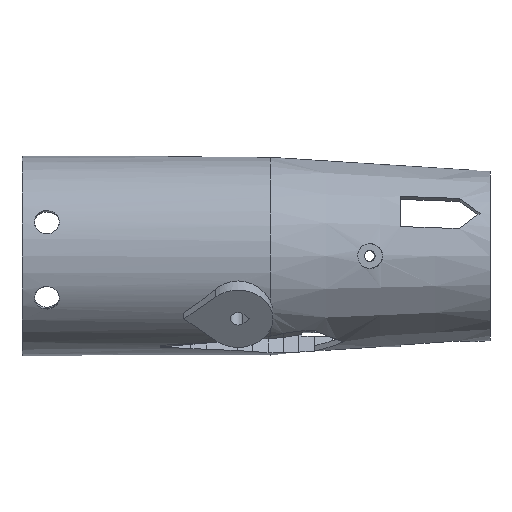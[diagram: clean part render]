
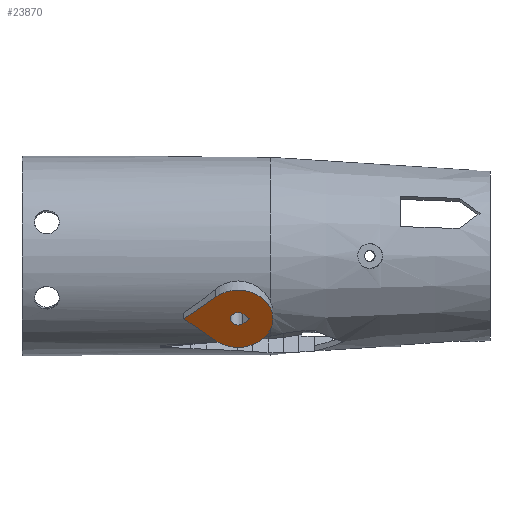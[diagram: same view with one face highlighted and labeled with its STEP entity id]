
A CAD part, front view. The second image highlights one B-rep face of the part: STEP entity #23870.
In plain terms, the highlighted planar face has unit normal (0, -0.819, -0.574).
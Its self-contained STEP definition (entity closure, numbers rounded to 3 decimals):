
#1912 = CYLINDRICAL_SURFACE('',#1913,7.);
#1913 = AXIS2_PLACEMENT_3D('',#1914,#1915,#1916);
#1914 = CARTESIAN_POINT('',(413.4,-9.83,-6.883));
#1915 = DIRECTION('',(-0.,-0.819,-0.574));
#1916 = DIRECTION('',(-0.,-0.574,0.819));
#1983 = PLANE('',#1984);
#1984 = AXIS2_PLACEMENT_3D('',#1985,#1986,#1987);
#1985 = CARTESIAN_POINT('',(408.9,-6.754,
    -11.275));
#1986 = DIRECTION('',(0.643,-0.439,0.628));
#1987 = DIRECTION('',(0.766,0.369,-0.527));
#2015 = PLANE('',#2016);
#2016 = AXIS2_PLACEMENT_3D('',#2017,#2018,#2019);
#2017 = CARTESIAN_POINT('',(402.51,-9.83,
    -6.883));
#2018 = DIRECTION('',(0.643,0.439,-0.628));
#2019 = DIRECTION('',(-0.766,0.369,-0.527));
#23733 = CYLINDRICAL_SURFACE('',#23734,1.525);
#23734 = AXIS2_PLACEMENT_3D('',#23735,#23736,#23737);
#23735 = CARTESIAN_POINT('',(413.4,-4.096,-2.868));
#23736 = DIRECTION('',(-0.,-0.819,-0.574));
#23737 = DIRECTION('',(-0.,-0.574,0.819));
#23761 = PLANE('',#23762);
#23762 = AXIS2_PLACEMENT_3D('',#23763,#23764,#23765);
#23763 = CARTESIAN_POINT('',(414.38,-3.426,
    -3.825));
#23764 = DIRECTION('',(0.643,0.439,-0.628));
#23765 = DIRECTION('',(-0.766,0.369,-0.527));
#23786 = PLANE('',#23787);
#23787 = AXIS2_PLACEMENT_3D('',#23788,#23789,#23790);
#23788 = CARTESIAN_POINT('',(415.772,-4.096,
    -2.868));
#23789 = DIRECTION('',(0.643,-0.439,0.628));
#23790 = DIRECTION('',(0.766,0.369,-0.527));
#23802 = VERTEX_POINT('',#23803);
#23803 = CARTESIAN_POINT('',(415.772,-18.021,
    -12.619));
#23824 = EDGE_CURVE('',#23802,#23825,#23827,.T.);
#23825 = VERTEX_POINT('',#23826);
#23826 = CARTESIAN_POINT('',(414.38,-18.691,
    -11.662));
#23827 = SURFACE_CURVE('',#23828,(#23832,#23838),.PCURVE_S1.);
#23828 = LINE('',#23829,#23830);
#23829 = CARTESIAN_POINT('',(415.076,-18.356,
    -12.14));
#23830 = VECTOR('',#23831,1.);
#23831 = DIRECTION('',(-0.766,-0.369,0.527));
#23832 = PCURVE('',#23786,#23833);
#23833 = DEFINITIONAL_REPRESENTATION('',(#23834),#23837);
#23834 = B_SPLINE_CURVE_WITH_KNOTS('',1,(#23835,#23836),.UNSPECIFIED.,
  .F.,.F.,(2,2),(-0.909,0.909),
  .PIECEWISE_BEZIER_KNOTS.);
#23835 = CARTESIAN_POINT('',(0.,-17.));
#23836 = CARTESIAN_POINT('',(-1.817,-17.));
#23837 = ( GEOMETRIC_REPRESENTATION_CONTEXT(2) 
PARAMETRIC_REPRESENTATION_CONTEXT() REPRESENTATION_CONTEXT('2D SPACE',''
  ) );
#23838 = PCURVE('',#23839,#23844);
#23839 = PLANE('',#23840);
#23840 = AXIS2_PLACEMENT_3D('',#23841,#23842,#23843);
#23841 = CARTESIAN_POINT('',(413.4,-18.021,-12.619));
#23842 = DIRECTION('',(-0.,-0.819,-0.574));
#23843 = DIRECTION('',(0.,0.574,-0.819));
#23844 = DEFINITIONAL_REPRESENTATION('',(#23845),#23849);
#23845 = LINE('',#23846,#23847);
#23846 = CARTESIAN_POINT('',(-0.584,1.676));
#23847 = VECTOR('',#23848,1.);
#23848 = DIRECTION('',(-0.643,-0.766));
#23849 = ( GEOMETRIC_REPRESENTATION_CONTEXT(2) 
PARAMETRIC_REPRESENTATION_CONTEXT() REPRESENTATION_CONTEXT('2D SPACE',''
  ) );
#23870 = ADVANCED_FACE('',(#23871,#23947),#23839,.T.);
#23871 = FACE_BOUND('',#23872,.F.);
#23872 = EDGE_LOOP('',(#23873,#23903,#23926));
#23873 = ORIENTED_EDGE('',*,*,#23874,.T.);
#23874 = EDGE_CURVE('',#23875,#23877,#23879,.T.);
#23875 = VERTEX_POINT('',#23876);
#23876 = CARTESIAN_POINT('',(408.9,-21.097,
    -8.226));
#23877 = VERTEX_POINT('',#23878);
#23878 = CARTESIAN_POINT('',(408.9,-14.946,
    -17.011));
#23879 = SURFACE_CURVE('',#23880,(#23885,#23896),.PCURVE_S1.);
#23880 = CIRCLE('',#23881,7.);
#23881 = AXIS2_PLACEMENT_3D('',#23882,#23883,#23884);
#23882 = CARTESIAN_POINT('',(413.4,-18.021,-12.619));
#23883 = DIRECTION('',(0.,0.819,0.574));
#23884 = DIRECTION('',(-0.643,-0.439,0.628));
#23885 = PCURVE('',#23839,#23886);
#23886 = DEFINITIONAL_REPRESENTATION('',(#23887),#23895);
#23887 = ( BOUNDED_CURVE() B_SPLINE_CURVE(2,(#23888,#23889,#23890,#23891
    ,#23892,#23893,#23894),.UNSPECIFIED.,.T.,.F.) 
B_SPLINE_CURVE_WITH_KNOTS((1,2,2,2,2,1),(-2.094,0.,
    2.094,4.189,6.283,8.378),
.UNSPECIFIED.) CURVE() GEOMETRIC_REPRESENTATION_ITEM() 
RATIONAL_B_SPLINE_CURVE((1.,0.5,1.,0.5,1.,0.5,1.)) REPRESENTATION_ITEM(
  '') );
#23888 = CARTESIAN_POINT('',(-5.362,-4.5));
#23889 = CARTESIAN_POINT('',(-13.156,4.788));
#23890 = CARTESIAN_POINT('',(-1.216,6.894));
#23891 = CARTESIAN_POINT('',(10.725,8.999));
#23892 = CARTESIAN_POINT('',(6.578,-2.394));
#23893 = CARTESIAN_POINT('',(2.431,-13.787));
#23894 = CARTESIAN_POINT('',(-5.362,-4.5));
#23895 = ( GEOMETRIC_REPRESENTATION_CONTEXT(2) 
PARAMETRIC_REPRESENTATION_CONTEXT() REPRESENTATION_CONTEXT('2D SPACE',''
  ) );
#23896 = PCURVE('',#1912,#23897);
#23897 = DEFINITIONAL_REPRESENTATION('',(#23898),#23902);
#23898 = LINE('',#23899,#23900);
#23899 = CARTESIAN_POINT('',(-5.585,10.));
#23900 = VECTOR('',#23901,1.);
#23901 = DIRECTION('',(-1.,0.));
#23902 = ( GEOMETRIC_REPRESENTATION_CONTEXT(2) 
PARAMETRIC_REPRESENTATION_CONTEXT() REPRESENTATION_CONTEXT('2D SPACE',''
  ) );
#23903 = ORIENTED_EDGE('',*,*,#23904,.T.);
#23904 = EDGE_CURVE('',#23877,#23905,#23907,.T.);
#23905 = VERTEX_POINT('',#23906);
#23906 = CARTESIAN_POINT('',(402.51,-18.021,
    -12.619));
#23907 = SURFACE_CURVE('',#23908,(#23912,#23919),.PCURVE_S1.);
#23908 = LINE('',#23909,#23910);
#23909 = CARTESIAN_POINT('',(408.9,-14.946,
    -17.011));
#23910 = VECTOR('',#23911,1.);
#23911 = DIRECTION('',(-0.766,-0.369,0.527));
#23912 = PCURVE('',#23839,#23913);
#23913 = DEFINITIONAL_REPRESENTATION('',(#23914),#23918);
#23914 = LINE('',#23915,#23916);
#23915 = CARTESIAN_POINT('',(5.362,-4.5));
#23916 = VECTOR('',#23917,1.);
#23917 = DIRECTION('',(-0.643,-0.766));
#23918 = ( GEOMETRIC_REPRESENTATION_CONTEXT(2) 
PARAMETRIC_REPRESENTATION_CONTEXT() REPRESENTATION_CONTEXT('2D SPACE',''
  ) );
#23919 = PCURVE('',#1983,#23920);
#23920 = DEFINITIONAL_REPRESENTATION('',(#23921),#23925);
#23921 = LINE('',#23922,#23923);
#23922 = CARTESIAN_POINT('',(0.,-10.));
#23923 = VECTOR('',#23924,1.);
#23924 = DIRECTION('',(-1.,0.));
#23925 = ( GEOMETRIC_REPRESENTATION_CONTEXT(2) 
PARAMETRIC_REPRESENTATION_CONTEXT() REPRESENTATION_CONTEXT('2D SPACE',''
  ) );
#23926 = ORIENTED_EDGE('',*,*,#23927,.T.);
#23927 = EDGE_CURVE('',#23905,#23875,#23928,.T.);
#23928 = SURFACE_CURVE('',#23929,(#23933,#23940),.PCURVE_S1.);
#23929 = LINE('',#23930,#23931);
#23930 = CARTESIAN_POINT('',(402.51,-18.021,
    -12.619));
#23931 = VECTOR('',#23932,1.);
#23932 = DIRECTION('',(0.766,-0.369,0.527));
#23933 = PCURVE('',#23839,#23934);
#23934 = DEFINITIONAL_REPRESENTATION('',(#23935),#23939);
#23935 = LINE('',#23936,#23937);
#23936 = CARTESIAN_POINT('',(-0.,-10.89));
#23937 = VECTOR('',#23938,1.);
#23938 = DIRECTION('',(-0.643,0.766));
#23939 = ( GEOMETRIC_REPRESENTATION_CONTEXT(2) 
PARAMETRIC_REPRESENTATION_CONTEXT() REPRESENTATION_CONTEXT('2D SPACE',''
  ) );
#23940 = PCURVE('',#2015,#23941);
#23941 = DEFINITIONAL_REPRESENTATION('',(#23942),#23946);
#23942 = LINE('',#23943,#23944);
#23943 = CARTESIAN_POINT('',(0.,-10.));
#23944 = VECTOR('',#23945,1.);
#23945 = DIRECTION('',(-1.,0.));
#23946 = ( GEOMETRIC_REPRESENTATION_CONTEXT(2) 
PARAMETRIC_REPRESENTATION_CONTEXT() REPRESENTATION_CONTEXT('2D SPACE',''
  ) );
#23947 = FACE_BOUND('',#23948,.F.);
#23948 = EDGE_LOOP('',(#23949,#23977,#23997));
#23949 = ORIENTED_EDGE('',*,*,#23950,.F.);
#23950 = EDGE_CURVE('',#23951,#23825,#23953,.T.);
#23951 = VERTEX_POINT('',#23952);
#23952 = CARTESIAN_POINT('',(414.38,-17.351,
    -13.576));
#23953 = SURFACE_CURVE('',#23954,(#23959,#23970),.PCURVE_S1.);
#23954 = CIRCLE('',#23955,1.525);
#23955 = AXIS2_PLACEMENT_3D('',#23956,#23957,#23958);
#23956 = CARTESIAN_POINT('',(413.4,-18.021,-12.619));
#23957 = DIRECTION('',(0.,0.819,0.574)
  );
#23958 = DIRECTION('',(0.643,0.439,-0.628));
#23959 = PCURVE('',#23839,#23960);
#23960 = DEFINITIONAL_REPRESENTATION('',(#23961),#23969);
#23961 = ( BOUNDED_CURVE() B_SPLINE_CURVE(2,(#23962,#23963,#23964,#23965
    ,#23966,#23967,#23968),.UNSPECIFIED.,.T.,.F.) 
B_SPLINE_CURVE_WITH_KNOTS((1,2,2,2,2,1),(-2.094,0.,
    2.094,4.189,6.283,8.378),
.UNSPECIFIED.) CURVE() GEOMETRIC_REPRESENTATION_ITEM() 
RATIONAL_B_SPLINE_CURVE((1.,0.5,1.,0.5,1.,0.5,1.)) REPRESENTATION_ITEM(
  '') );
#23962 = CARTESIAN_POINT('',(1.168,0.98));
#23963 = CARTESIAN_POINT('',(2.866,-1.043));
#23964 = CARTESIAN_POINT('',(0.265,-1.502));
#23965 = CARTESIAN_POINT('',(-2.336,-1.961));
#23966 = CARTESIAN_POINT('',(-1.433,0.522));
#23967 = CARTESIAN_POINT('',(-0.53,3.004));
#23968 = CARTESIAN_POINT('',(1.168,0.98));
#23969 = ( GEOMETRIC_REPRESENTATION_CONTEXT(2) 
PARAMETRIC_REPRESENTATION_CONTEXT() REPRESENTATION_CONTEXT('2D SPACE',''
  ) );
#23970 = PCURVE('',#23733,#23971);
#23971 = DEFINITIONAL_REPRESENTATION('',(#23972),#23976);
#23972 = LINE('',#23973,#23974);
#23973 = CARTESIAN_POINT('',(-2.443,17.));
#23974 = VECTOR('',#23975,1.);
#23975 = DIRECTION('',(-1.,-0.));
#23976 = ( GEOMETRIC_REPRESENTATION_CONTEXT(2) 
PARAMETRIC_REPRESENTATION_CONTEXT() REPRESENTATION_CONTEXT('2D SPACE',''
  ) );
#23977 = ORIENTED_EDGE('',*,*,#23978,.T.);
#23978 = EDGE_CURVE('',#23951,#23802,#23979,.T.);
#23979 = SURFACE_CURVE('',#23980,(#23984,#23991),.PCURVE_S1.);
#23980 = LINE('',#23981,#23982);
#23981 = CARTESIAN_POINT('',(414.38,-17.351,
    -13.576));
#23982 = VECTOR('',#23983,1.);
#23983 = DIRECTION('',(0.766,-0.369,0.527));
#23984 = PCURVE('',#23839,#23985);
#23985 = DEFINITIONAL_REPRESENTATION('',(#23986),#23990);
#23986 = LINE('',#23987,#23988);
#23987 = CARTESIAN_POINT('',(1.168,0.98));
#23988 = VECTOR('',#23989,1.);
#23989 = DIRECTION('',(-0.643,0.766));
#23990 = ( GEOMETRIC_REPRESENTATION_CONTEXT(2) 
PARAMETRIC_REPRESENTATION_CONTEXT() REPRESENTATION_CONTEXT('2D SPACE',''
  ) );
#23991 = PCURVE('',#23761,#23992);
#23992 = DEFINITIONAL_REPRESENTATION('',(#23993),#23996);
#23993 = B_SPLINE_CURVE_WITH_KNOTS('',1,(#23994,#23995),.UNSPECIFIED.,
  .F.,.F.,(2,2),(0.,1.817),
  .PIECEWISE_BEZIER_KNOTS.);
#23994 = CARTESIAN_POINT('',(0.,-17.));
#23995 = CARTESIAN_POINT('',(-1.817,-17.));
#23996 = ( GEOMETRIC_REPRESENTATION_CONTEXT(2) 
PARAMETRIC_REPRESENTATION_CONTEXT() REPRESENTATION_CONTEXT('2D SPACE',''
  ) );
#23997 = ORIENTED_EDGE('',*,*,#23824,.T.);
